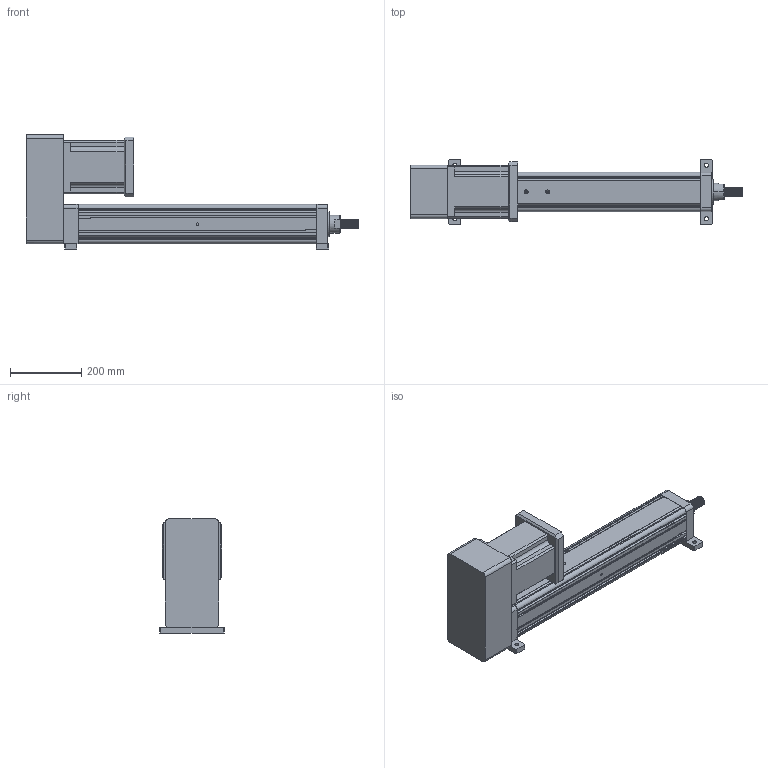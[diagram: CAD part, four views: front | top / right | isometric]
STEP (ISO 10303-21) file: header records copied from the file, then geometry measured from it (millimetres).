
FILE_DESCRIPTION (( 'STEP AP203' ), '1' );
FILE_NAME ('YRJ110-L500-H2K1.STEP', '2020-01-04T06:07:41', ( 'User' ), ( 'China' ), 'SwSTEP 2.0', 'SolidWorks 2016', '' );
FILE_SCHEMA (( 'CONFIG_CONTROL_DESIGN' ));
Length unit declared in the file: millimetre
Products named in the file (7): 142熬厒儂; H2-110-1; H2-110-2; K1-110; YRJ110-L500-H2K1; 095-100俴最倰第; 萇儂碟-110
Assembly tree (6 placements, depth 2):
  YRJ110-L500-H2K1
    095-100俴最倰第
    萇儂碟-110
    142熬厒儂
    H2-110-1
    H2-110-2
    K1-110
Bounding box: 931 x 180 x 320 mm (x, y, z)
Volume: 12743910.1 mm3; surface area: 1091863.7 mm2
Topology: 6 solids, 6 shells, 373 faces, 1033 edges, 668 vertices
Faces by surface type: plane 186, cylinder 156, cone 27, bspline 4
Entity records: 20550 total; most frequent: CARTESIAN_POINT 10416, ORIENTED_EDGE 2034, DIRECTION 1879, EDGE_CURVE 1017, VERTEX_POINT 668, VECTOR 657, LINE 657, AXIS2_PLACEMENT_3D 611
